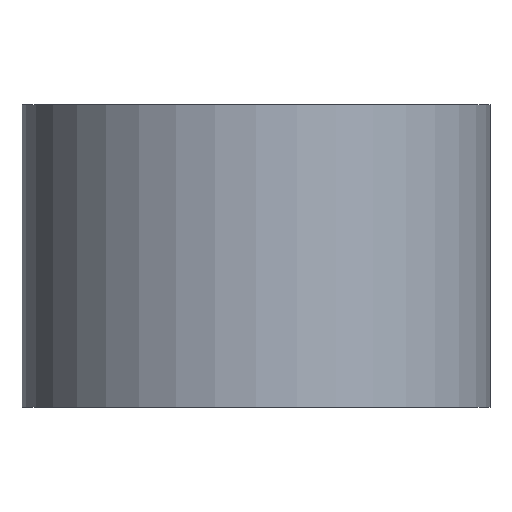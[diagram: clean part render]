
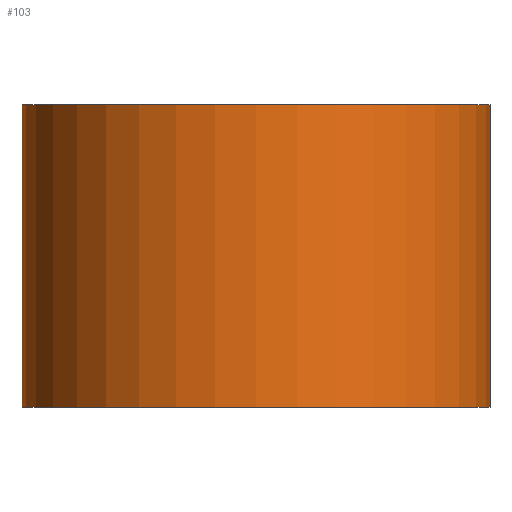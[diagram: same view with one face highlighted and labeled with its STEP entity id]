
A CAD part, left-side view. The second image highlights one B-rep face of the part: STEP entity #103.
In plain terms, the highlighted cylindrical face has radius 17 mm (diameter 34 mm), a partial arc.
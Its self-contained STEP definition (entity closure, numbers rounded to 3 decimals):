
#103=ADVANCED_FACE('',(#113),#109,.T.);
#109=CYLINDRICAL_SURFACE('',#188,17.);
#113=FACE_OUTER_BOUND('',#117,.T.);
#117=EDGE_LOOP('',(#133,#134,#135,#136));
#125=CIRCLE('',#186,17.);
#126=CIRCLE('',#187,17.);
#133=ORIENTED_EDGE('',*,*,#165,.T.);
#134=ORIENTED_EDGE('',*,*,#166,.F.);
#135=ORIENTED_EDGE('',*,*,#167,.F.);
#136=ORIENTED_EDGE('',*,*,#168,.T.);
#157=VERTEX_POINT('',#236);
#158=VERTEX_POINT('',#237);
#159=VERTEX_POINT('',#239);
#160=VERTEX_POINT('',#241);
#165=EDGE_CURVE('',#157,#158,#177,.T.);
#166=EDGE_CURVE('',#159,#158,#125,.T.);
#167=EDGE_CURVE('',#160,#159,#178,.T.);
#168=EDGE_CURVE('',#160,#157,#126,.T.);
#177=LINE('',#235,#181);
#178=LINE('',#240,#182);
#181=VECTOR('',#202,1.);
#182=VECTOR('',#205,1.);
#186=AXIS2_PLACEMENT_3D('',#238,#203,#204);
#187=AXIS2_PLACEMENT_3D('',#242,#206,#207);
#188=AXIS2_PLACEMENT_3D('',#243,#208,#209);
#202=DIRECTION('',(0.,0.,1.));
#203=DIRECTION('',(0.,0.,1.));
#204=DIRECTION('',(1.,0.,0.));
#205=DIRECTION('',(0.,0.,1.));
#206=DIRECTION('',(0.,0.,1.));
#207=DIRECTION('',(1.,0.,0.));
#208=DIRECTION('',(0.,0.,1.));
#209=DIRECTION('',(-1.,0.,0.));
#235=CARTESIAN_POINT('',(0.,-17.,0.));
#236=CARTESIAN_POINT('',(0.,-17.,0.));
#237=CARTESIAN_POINT('',(0.,-17.,22.));
#238=CARTESIAN_POINT('',(0.,0.,22.));
#239=CARTESIAN_POINT('',(0.,17.,22.));
#240=CARTESIAN_POINT('',(0.,17.,0.));
#241=CARTESIAN_POINT('',(0.,17.,0.));
#242=CARTESIAN_POINT('',(0.,0.,0.));
#243=CARTESIAN_POINT('',(0.,0.,0.));
